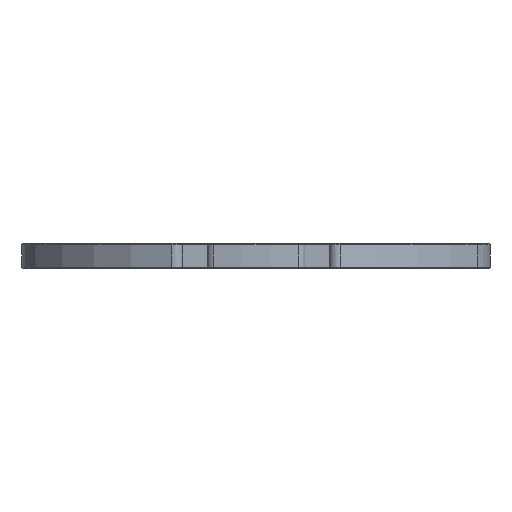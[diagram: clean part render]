
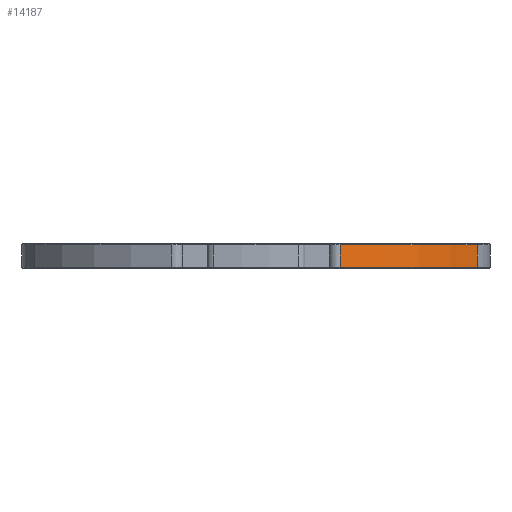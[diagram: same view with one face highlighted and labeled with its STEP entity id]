
A CAD part, front view. The second image highlights one B-rep face of the part: STEP entity #14187.
In plain terms, the highlighted cylindrical face has radius 64.25 mm (diameter 128.5 mm), a partial arc.
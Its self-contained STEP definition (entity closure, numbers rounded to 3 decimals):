
#572 = DIRECTION ( 'NONE',  ( 0., 0., 1. ) ) ;
#1687 = DIRECTION ( 'NONE',  ( 0., 0., -1. ) ) ;
#1837 = CARTESIAN_POINT ( 'NONE',  ( 0., 0., 2.8 ) ) ;
#2351 = VERTEX_POINT ( 'NONE', #9824 ) ;
#3125 = EDGE_LOOP ( 'NONE', ( #22806, #6003, #3272, #19251 ) ) ;
#3271 = VERTEX_POINT ( 'NONE', #15457 ) ;
#3272 = ORIENTED_EDGE ( 'NONE', *, *, #21048, .T. ) ;
#4850 = CARTESIAN_POINT ( 'NONE',  ( 20.643, -60.844, -3. ) ) ;
#5260 = CYLINDRICAL_SURFACE ( 'NONE', #17003, 64.25 ) ;
#5901 = VERTEX_POINT ( 'NONE', #19183 ) ;
#6003 = ORIENTED_EDGE ( 'NONE', *, *, #14436, .T. ) ;
#6152 = CARTESIAN_POINT ( 'NONE',  ( 0., 0., -2.8 ) ) ;
#7678 = CIRCLE ( 'NONE', #20734, 64.25 ) ;
#7807 = DIRECTION ( 'NONE',  ( -1., 0., 0. ) ) ;
#9824 = CARTESIAN_POINT ( 'NONE',  ( 54.289, -34.362, 2.8 ) ) ;
#11325 = EDGE_CURVE ( 'NONE', #5901, #16807, #20972, .T. ) ;
#12850 = CARTESIAN_POINT ( 'NONE',  ( 54.289, -34.362, -3. ) ) ;
#14134 = FACE_OUTER_BOUND ( 'NONE', #3125, .T. ) ;
#14187 = ADVANCED_FACE ( 'NONE', ( #14134 ), #5260, .T. ) ;
#14227 = DIRECTION ( 'NONE',  ( -1., 0., 0. ) ) ;
#14436 = EDGE_CURVE ( 'NONE', #16807, #3271, #7678, .T. ) ;
#14597 = CARTESIAN_POINT ( 'NONE',  ( 0., 0., -3. ) ) ;
#14724 = EDGE_CURVE ( 'NONE', #2351, #5901, #15933, .T. ) ;
#14943 = CARTESIAN_POINT ( 'NONE',  ( 20.643, -60.844, -2.8 ) ) ;
#15457 = CARTESIAN_POINT ( 'NONE',  ( 54.289, -34.362, -2.8 ) ) ;
#15541 = AXIS2_PLACEMENT_3D ( 'NONE', #1837, #19361, #14227 ) ;
#15933 = CIRCLE ( 'NONE', #15541, 64.25 ) ;
#16683 = DIRECTION ( 'NONE',  ( 0., 0., 1. ) ) ;
#16807 = VERTEX_POINT ( 'NONE', #14943 ) ;
#17003 = AXIS2_PLACEMENT_3D ( 'NONE', #14597, #23127, #21264 ) ;
#17954 = VECTOR ( 'NONE', #572, 1000. ) ;
#19183 = CARTESIAN_POINT ( 'NONE',  ( 20.643, -60.844, 2.8 ) ) ;
#19251 = ORIENTED_EDGE ( 'NONE', *, *, #14724, .T. ) ;
#19361 = DIRECTION ( 'NONE',  ( 0., 0., -1. ) ) ;
#20215 = LINE ( 'NONE', #12850, #17954 ) ;
#20734 = AXIS2_PLACEMENT_3D ( 'NONE', #6152, #16683, #7807 ) ;
#20972 = LINE ( 'NONE', #4850, #22176 ) ;
#21048 = EDGE_CURVE ( 'NONE', #3271, #2351, #20215, .T. ) ;
#21264 = DIRECTION ( 'NONE',  ( 1., 0., 0. ) ) ;
#22176 = VECTOR ( 'NONE', #1687, 1000. ) ;
#22806 = ORIENTED_EDGE ( 'NONE', *, *, #11325, .T. ) ;
#23127 = DIRECTION ( 'NONE',  ( 0., 0., 1. ) ) ;
